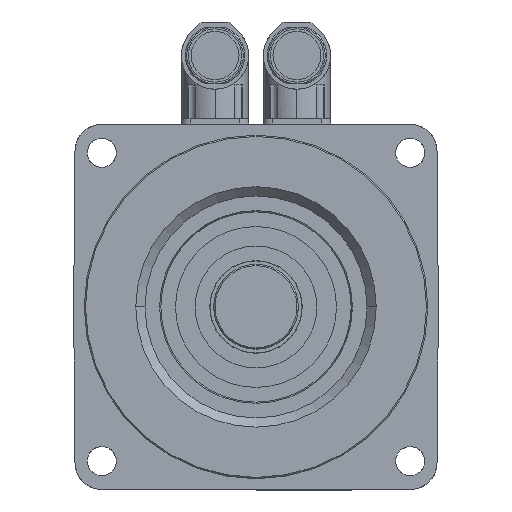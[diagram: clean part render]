
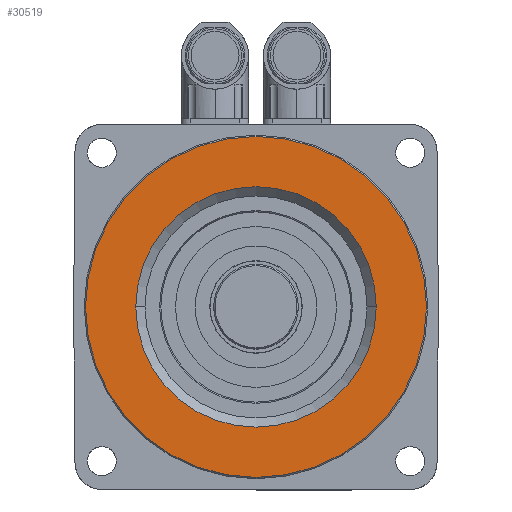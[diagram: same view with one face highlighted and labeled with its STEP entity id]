
A CAD part, top view. The second image highlights one B-rep face of the part: STEP entity #30519.
In plain terms, the highlighted planar face has unit normal (0, 0, 1).
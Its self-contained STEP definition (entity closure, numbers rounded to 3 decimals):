
#1057 = VERTEX_POINT ( 'NONE', #10336 ) ;
#1088 = VERTEX_POINT ( 'NONE', #10962 ) ;
#1095 = EDGE_CURVE ( 'NONE', #1088, #1057, #10947, .T. ) ;
#10336 = CARTESIAN_POINT ( 'NONE',  ( -64.5, 0., 2.46 ) ) ;
#10942 = DIRECTION ( 'NONE',  ( 1., 0., 0. ) ) ;
#10943 = DIRECTION ( 'NONE',  ( 0., 0., 1. ) ) ;
#10945 = CARTESIAN_POINT ( 'NONE',  ( 0., 0., 2.46 ) ) ;
#10946 = AXIS2_PLACEMENT_3D ( 'NONE', #10945, #10943, #10942 ) ;
#10947 = CIRCLE ( 'NONE', #10946, 64.5 ) ;
#10962 = CARTESIAN_POINT ( 'NONE',  ( 64.5, 0., 2.46 ) ) ;
#17305 = DIRECTION ( 'NONE',  ( 1., 0., 0. ) ) ;
#18163 = DIRECTION ( 'NONE',  ( 1., 0., 0. ) ) ;
#18165 = DIRECTION ( 'NONE',  ( 0., 0., 1. ) ) ;
#18167 = CARTESIAN_POINT ( 'NONE',  ( 0., 0., 2.46 ) ) ;
#18168 = AXIS2_PLACEMENT_3D ( 'NONE', #18167, #18165, #18163 ) ;
#18183 = CIRCLE ( 'NONE', #18168, 64.5 ) ;
#18344 = FACE_BOUND ( 'NONE', #30427, .T. ) ;
#18345 = FACE_OUTER_BOUND ( 'NONE', #30349, .T. ) ;
#18390 = DIRECTION ( 'NONE',  ( 0., 0., 1. ) ) ;
#18391 = CARTESIAN_POINT ( 'NONE',  ( 0., 64.5, 2.46 ) ) ;
#18392 = AXIS2_PLACEMENT_3D ( 'NONE', #18391, #18390, #17305 ) ;
#18400 = PLANE ( 'NONE',  #18392 ) ;
#18473 = DIRECTION ( 'NONE',  ( -1., 0., 0. ) ) ;
#18474 = DIRECTION ( 'NONE',  ( 0., 0., -1. ) ) ;
#18475 = CARTESIAN_POINT ( 'NONE',  ( 0., 0., 2.46 ) ) ;
#18476 = AXIS2_PLACEMENT_3D ( 'NONE', #18475, #18474, #18473 ) ;
#18477 = CIRCLE ( 'NONE', #18476, 45.5 ) ;
#26955 = CARTESIAN_POINT ( 'NONE',  ( 0., 0., 2.46 ) ) ;
#27007 = CARTESIAN_POINT ( 'NONE',  ( 45.5, 0., 2.46 ) ) ;
#27008 = DIRECTION ( 'NONE',  ( -1., 0., 0. ) ) ;
#27009 = DIRECTION ( 'NONE',  ( 0., 0., -1. ) ) ;
#27010 = AXIS2_PLACEMENT_3D ( 'NONE', #26955, #27009, #27008 ) ;
#27011 = CIRCLE ( 'NONE', #27010, 45.5 ) ;
#27061 = CARTESIAN_POINT ( 'NONE',  ( -45.5, 0., 2.46 ) ) ;
#30296 = ORIENTED_EDGE ( 'NONE', *, *, #32015, .T. ) ;
#30318 = ORIENTED_EDGE ( 'NONE', *, *, #1095, .T. ) ;
#30349 = EDGE_LOOP ( 'NONE', ( #30440, #30318 ) ) ;
#30379 = ORIENTED_EDGE ( 'NONE', *, *, #30549, .T. ) ;
#30424 = EDGE_CURVE ( 'NONE', #1057, #1088, #18183, .T. ) ;
#30427 = EDGE_LOOP ( 'NONE', ( #30296, #30379 ) ) ;
#30440 = ORIENTED_EDGE ( 'NONE', *, *, #30424, .T. ) ;
#30519 = ADVANCED_FACE ( 'NONE', ( #18345, #18344 ), #18400, .T. ) ;
#30549 = EDGE_CURVE ( 'NONE', #32066, #32017, #18477, .T. ) ;
#32015 = EDGE_CURVE ( 'NONE', #32017, #32066, #27011, .T. ) ;
#32017 = VERTEX_POINT ( 'NONE', #27007 ) ;
#32066 = VERTEX_POINT ( 'NONE', #27061 ) ;
